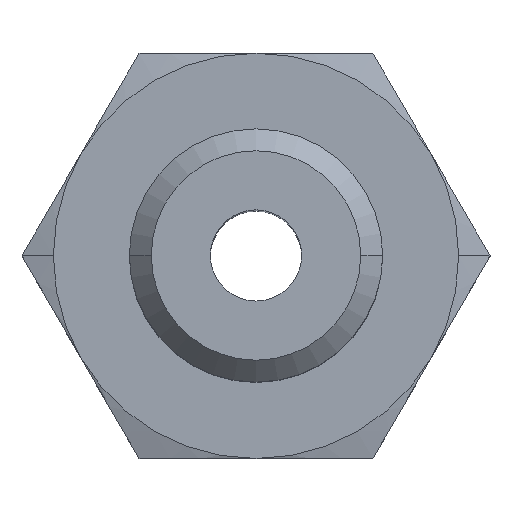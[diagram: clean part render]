
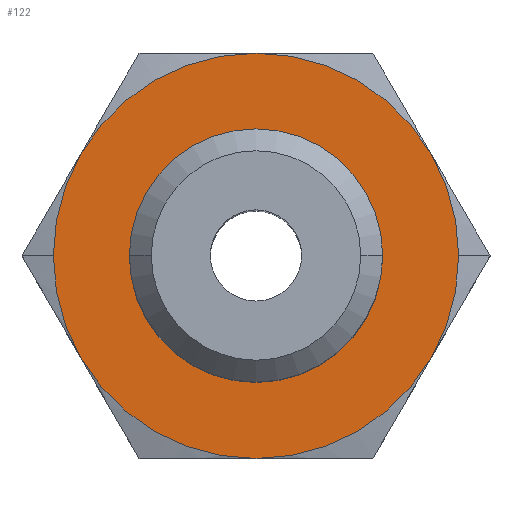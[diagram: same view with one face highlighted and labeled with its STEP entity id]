
A CAD part, top view. The second image highlights one B-rep face of the part: STEP entity #122.
In plain terms, the highlighted planar face has unit normal (0, 0, 1).
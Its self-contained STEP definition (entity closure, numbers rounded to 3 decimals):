
#122=ADVANCED_FACE('',(#249,#250),#251,.T.);
#249=FACE_OUTER_BOUND('',#389,.T.);
#250=FACE_BOUND('',#390,.T.);
#251=PLANE('',#391);
#389=EDGE_LOOP('',(#621,#622,#623,#624,#625,#626,#627,#628));
#390=EDGE_LOOP('',(#629,#630));
#391=AXIS2_PLACEMENT_3D('',#631,#632,#633);
#621=ORIENTED_EDGE('',*,*,#879,.T.);
#622=ORIENTED_EDGE('',*,*,#892,.T.);
#623=ORIENTED_EDGE('',*,*,#865,.T.);
#624=ORIENTED_EDGE('',*,*,#893,.T.);
#625=ORIENTED_EDGE('',*,*,#894,.T.);
#626=ORIENTED_EDGE('',*,*,#868,.T.);
#627=ORIENTED_EDGE('',*,*,#895,.T.);
#628=ORIENTED_EDGE('',*,*,#896,.T.);
#629=ORIENTED_EDGE('',*,*,#897,.T.);
#630=ORIENTED_EDGE('',*,*,#888,.T.);
#631=CARTESIAN_POINT('',(0.,0.,3.0));
#632=DIRECTION('',(0.0,0.0,1.0));
#633=DIRECTION('',(1.0,0.0,0.0));
#865=EDGE_CURVE('',#1028,#1030,#1032,.T.);
#868=EDGE_CURVE('',#1036,#1034,#1037,.T.);
#879=EDGE_CURVE('',#1009,#1051,#1053,.T.);
#888=EDGE_CURVE('',#1067,#1065,#1068,.F.);
#892=EDGE_CURVE('',#1051,#1028,#1072,.T.);
#893=EDGE_CURVE('',#1030,#1056,#1073,.T.);
#894=EDGE_CURVE('',#1056,#1036,#1074,.T.);
#895=EDGE_CURVE('',#1034,#990,#1075,.T.);
#896=EDGE_CURVE('',#990,#1009,#1076,.T.);
#897=EDGE_CURVE('',#1065,#1067,#1077,.F.);
#990=VERTEX_POINT('',#1201);
#1009=VERTEX_POINT('',#1258);
#1028=VERTEX_POINT('',#1324);
#1030=VERTEX_POINT('',#1327);
#1032=CIRCLE('',#1338,4.0);
#1034=VERTEX_POINT('',#1340);
#1036=VERTEX_POINT('',#1343);
#1037=CIRCLE('',#1344,4.0);
#1051=VERTEX_POINT('',#1369);
#1053=CIRCLE('',#1380,4.0);
#1056=VERTEX_POINT('',#1383);
#1065=VERTEX_POINT('',#1421);
#1067=VERTEX_POINT('',#1424);
#1068=CIRCLE('',#1425,2.5);
#1072=CIRCLE('',#1430,4.0);
#1073=CIRCLE('',#1431,4.0);
#1074=CIRCLE('',#1432,4.0);
#1075=CIRCLE('',#1433,4.0);
#1076=CIRCLE('',#1434,4.0);
#1077=CIRCLE('',#1435,2.5);
#1201=CARTESIAN_POINT('',(3.464,2.0,3.0));
#1258=CARTESIAN_POINT('',(0.,4.0,3.0));
#1324=CARTESIAN_POINT('',(-4.0,0.,3.0));
#1327=CARTESIAN_POINT('',(-3.464,-2.0,3.0));
#1338=AXIS2_PLACEMENT_3D('',#1614,#1615,#1616);
#1340=CARTESIAN_POINT('',(4.0,0.,3.0));
#1343=CARTESIAN_POINT('',(3.464,-2.0,3.0));
#1344=AXIS2_PLACEMENT_3D('',#1618,#1619,#1620);
#1369=CARTESIAN_POINT('',(-3.464,2.0,3.0));
#1380=AXIS2_PLACEMENT_3D('',#1632,#1633,#1634);
#1383=CARTESIAN_POINT('',(0.,-4.0,3.0));
#1421=CARTESIAN_POINT('',(2.5,0.,3.0));
#1424=CARTESIAN_POINT('',(-2.5,0.,3.0));
#1425=AXIS2_PLACEMENT_3D('',#1638,#1639,#1640);
#1430=AXIS2_PLACEMENT_3D('',#1645,#1646,#1647);
#1431=AXIS2_PLACEMENT_3D('',#1648,#1649,#1650);
#1432=AXIS2_PLACEMENT_3D('',#1651,#1652,#1653);
#1433=AXIS2_PLACEMENT_3D('',#1654,#1655,#1656);
#1434=AXIS2_PLACEMENT_3D('',#1657,#1658,#1659);
#1435=AXIS2_PLACEMENT_3D('',#1660,#1661,#1662);
#1614=CARTESIAN_POINT('',(0.0,0.,3.0));
#1615=DIRECTION('',(0.0,0.0,1.0));
#1616=DIRECTION('',(1.0,0.0,0.0));
#1618=CARTESIAN_POINT('',(0.0,0.,3.0));
#1619=DIRECTION('',(0.0,0.0,1.0));
#1620=DIRECTION('',(1.0,0.0,0.0));
#1632=CARTESIAN_POINT('',(0.0,0.,3.0));
#1633=DIRECTION('',(0.0,0.0,1.0));
#1634=DIRECTION('',(1.0,0.0,0.0));
#1638=CARTESIAN_POINT('',(0.0,0.,3.0));
#1639=DIRECTION('',(0.0,0.0,1.0));
#1640=DIRECTION('',(1.0,0.0,0.0));
#1645=CARTESIAN_POINT('',(0.0,0.,3.0));
#1646=DIRECTION('',(0.0,0.0,1.0));
#1647=DIRECTION('',(1.0,0.0,0.0));
#1648=CARTESIAN_POINT('',(0.0,0.,3.0));
#1649=DIRECTION('',(0.0,0.0,1.0));
#1650=DIRECTION('',(1.0,0.0,0.0));
#1651=CARTESIAN_POINT('',(0.0,0.,3.0));
#1652=DIRECTION('',(0.0,0.0,1.0));
#1653=DIRECTION('',(1.0,0.0,0.0));
#1654=CARTESIAN_POINT('',(0.0,0.,3.0));
#1655=DIRECTION('',(0.0,0.0,1.0));
#1656=DIRECTION('',(1.0,0.0,0.0));
#1657=CARTESIAN_POINT('',(0.0,0.,3.0));
#1658=DIRECTION('',(0.0,0.0,1.0));
#1659=DIRECTION('',(1.0,0.0,0.0));
#1660=CARTESIAN_POINT('',(0.0,0.,3.0));
#1661=DIRECTION('',(0.0,0.0,1.0));
#1662=DIRECTION('',(1.0,0.0,0.0));
